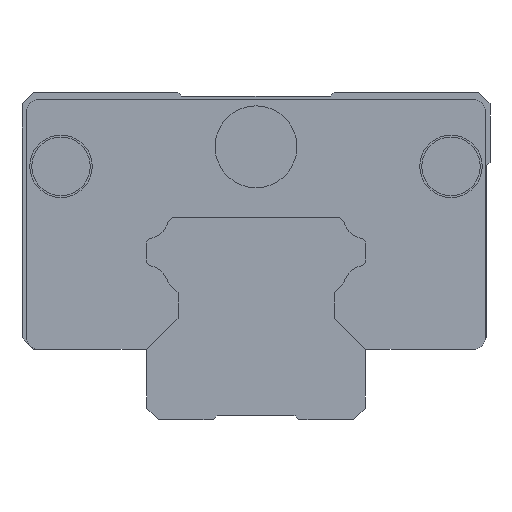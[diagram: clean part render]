
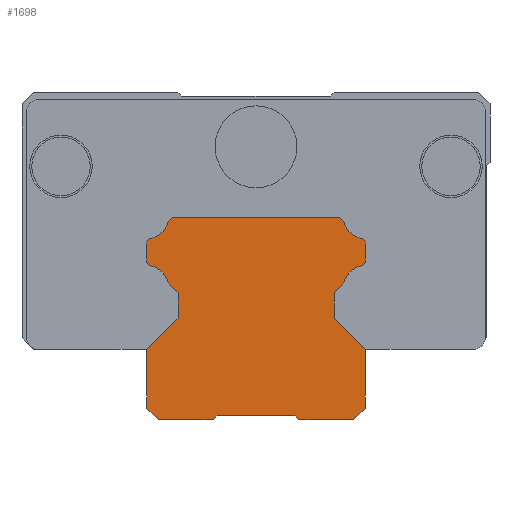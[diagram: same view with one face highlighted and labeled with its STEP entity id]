
A CAD part, left-side view. The second image highlights one B-rep face of the part: STEP entity #1698.
In plain terms, the highlighted planar face has unit normal (-1, 0, 0).
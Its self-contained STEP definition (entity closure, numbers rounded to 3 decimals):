
#758=CARTESIAN_POINT('',(0.0,-14.,9.0));
#759=VERTEX_POINT('',#758);
#766=CARTESIAN_POINT('',(0.0,-14.,1.5));
#767=VERTEX_POINT('',#766);
#768=CARTESIAN_POINT('',(0.0,-14.,9.0));
#769=DIRECTION('',(0.0,0.0,-1.0));
#770=VECTOR('',#769,7.5);
#771=LINE('',#768,#770);
#772=EDGE_CURVE('',#759,#767,#771,.T.);
#796=CARTESIAN_POINT('',(0.0,-10.0,13.0));
#797=VERTEX_POINT('',#796);
#804=CARTESIAN_POINT('',(0.0,-10.0,13.0));
#805=DIRECTION('',(0.0,-0.707,-0.707));
#806=VECTOR('',#805,5.657);
#807=LINE('',#804,#806);
#808=EDGE_CURVE('',#797,#759,#807,.T.);
#827=CARTESIAN_POINT('',(0.0,-10.0,16.289));
#828=VERTEX_POINT('',#827);
#835=CARTESIAN_POINT('',(0.0,-10.0,16.289));
#836=DIRECTION('',(0.0,0.0,-1.0));
#837=VECTOR('',#836,3.289);
#838=LINE('',#835,#837);
#839=EDGE_CURVE('',#828,#797,#838,.T.);
#858=CARTESIAN_POINT('',(0.0,-11.261,17.55));
#859=VERTEX_POINT('',#858);
#866=CARTESIAN_POINT('',(0.0,-11.261,17.55));
#867=DIRECTION('',(0.0,0.707,-0.707));
#868=VECTOR('',#867,1.784);
#869=LINE('',#866,#868);
#870=EDGE_CURVE('',#859,#828,#869,.T.);
#890=CARTESIAN_POINT('',(0.0,-13.518,19.758));
#891=VERTEX_POINT('',#890);
#898=CARTESIAN_POINT('',(0.0,-14.082,16.925));
#899=DIRECTION('',(-1.,0.0,0.0));
#900=DIRECTION('',(0.0,-0.976,-0.216));
#901=AXIS2_PLACEMENT_3D('',#898,#899,#900);
#902=CIRCLE('',#901,2.889);
#903=EDGE_CURVE('',#891,#859,#902,.T.);
#923=CARTESIAN_POINT('',(0.0,-14.,20.347));
#924=VERTEX_POINT('',#923);
#931=CARTESIAN_POINT('',(0.0,-13.4,20.347));
#932=DIRECTION('',(1.0,0.0,0.0));
#933=DIRECTION('',(0.0,-1.0,0.0));
#934=AXIS2_PLACEMENT_3D('',#931,#932,#933);
#935=CIRCLE('',#934,0.6);
#936=EDGE_CURVE('',#924,#891,#935,.T.);
#955=CARTESIAN_POINT('',(0.0,-14.,22.653));
#956=VERTEX_POINT('',#955);
#963=CARTESIAN_POINT('',(0.0,-14.,22.653));
#964=DIRECTION('',(0.0,0.0,-1.0));
#965=VECTOR('',#964,2.307);
#966=LINE('',#963,#965);
#967=EDGE_CURVE('',#956,#924,#966,.T.);
#987=CARTESIAN_POINT('',(0.0,-13.517,23.242));
#988=VERTEX_POINT('',#987);
#995=CARTESIAN_POINT('',(0.0,-13.4,22.653));
#996=DIRECTION('',(1.,0.0,0.0));
#997=DIRECTION('',(0.0,-0.194,0.981));
#998=AXIS2_PLACEMENT_3D('',#995,#996,#997);
#999=CIRCLE('',#998,0.6);
#1000=EDGE_CURVE('',#988,#956,#999,.T.);
#1020=CARTESIAN_POINT('',(0.0,-11.261,25.45));
#1021=VERTEX_POINT('',#1020);
#1028=CARTESIAN_POINT('',(0.0,-14.082,26.075));
#1029=DIRECTION('',(-1.,0.0,0.0));
#1030=DIRECTION('',(0.0,-0.196,0.981));
#1031=AXIS2_PLACEMENT_3D('',#1028,#1029,#1030);
#1032=CIRCLE('',#1031,2.889);
#1033=EDGE_CURVE('',#1021,#988,#1032,.T.);
#1052=CARTESIAN_POINT('',(0.0,-10.711,26.0));
#1053=VERTEX_POINT('',#1052);
#1060=CARTESIAN_POINT('',(0.0,-10.711,26.0));
#1061=DIRECTION('',(0.0,-0.707,-0.707));
#1062=VECTOR('',#1061,0.778);
#1063=LINE('',#1060,#1062);
#1064=EDGE_CURVE('',#1053,#1021,#1063,.T.);
#1083=CARTESIAN_POINT('',(0.0,10.711,26.));
#1084=VERTEX_POINT('',#1083);
#1091=CARTESIAN_POINT('',(0.0,10.711,26.));
#1092=DIRECTION('',(0.0,-1.0,0.0));
#1093=VECTOR('',#1092,21.423);
#1094=LINE('',#1091,#1093);
#1095=EDGE_CURVE('',#1084,#1053,#1094,.T.);
#1132=CARTESIAN_POINT('',(0.0,11.261,25.45));
#1133=VERTEX_POINT('',#1132);
#1140=CARTESIAN_POINT('',(0.0,11.261,25.45));
#1141=DIRECTION('',(0.0,-0.707,0.707));
#1142=VECTOR('',#1141,0.778);
#1143=LINE('',#1140,#1142);
#1144=EDGE_CURVE('',#1133,#1084,#1143,.T.);
#1164=CARTESIAN_POINT('',(0.0,13.517,23.242));
#1165=VERTEX_POINT('',#1164);
#1172=CARTESIAN_POINT('',(0.0,14.082,26.075));
#1173=DIRECTION('',(-1.0,0.0,0.0));
#1174=DIRECTION('',(0.0,0.976,0.216));
#1175=AXIS2_PLACEMENT_3D('',#1172,#1173,#1174);
#1176=CIRCLE('',#1175,2.889);
#1177=EDGE_CURVE('',#1165,#1133,#1176,.T.);
#1197=CARTESIAN_POINT('',(0.0,14.,22.653));
#1198=VERTEX_POINT('',#1197);
#1205=CARTESIAN_POINT('',(0.0,13.4,22.653));
#1206=DIRECTION('',(1.0,0.0,0.0));
#1207=DIRECTION('',(0.0,1.0,0.0));
#1208=AXIS2_PLACEMENT_3D('',#1205,#1206,#1207);
#1209=CIRCLE('',#1208,0.6);
#1210=EDGE_CURVE('',#1198,#1165,#1209,.T.);
#1229=CARTESIAN_POINT('',(0.0,14.,20.347));
#1230=VERTEX_POINT('',#1229);
#1237=CARTESIAN_POINT('',(0.0,14.,20.347));
#1238=DIRECTION('',(0.0,0.0,1.0));
#1239=VECTOR('',#1238,2.307);
#1240=LINE('',#1237,#1239);
#1241=EDGE_CURVE('',#1230,#1198,#1240,.T.);
#1261=CARTESIAN_POINT('',(0.0,13.518,19.758));
#1262=VERTEX_POINT('',#1261);
#1269=CARTESIAN_POINT('',(0.0,13.4,20.347));
#1270=DIRECTION('',(1.0,0.0,0.0));
#1271=DIRECTION('',(0.0,0.196,-0.981));
#1272=AXIS2_PLACEMENT_3D('',#1269,#1270,#1271);
#1273=CIRCLE('',#1272,0.6);
#1274=EDGE_CURVE('',#1262,#1230,#1273,.T.);
#1294=CARTESIAN_POINT('',(0.0,11.261,17.55));
#1295=VERTEX_POINT('',#1294);
#1302=CARTESIAN_POINT('',(0.0,14.082,16.925));
#1303=DIRECTION('',(-1.,0.0,0.0));
#1304=DIRECTION('',(0.0,0.195,-0.981));
#1305=AXIS2_PLACEMENT_3D('',#1302,#1303,#1304);
#1306=CIRCLE('',#1305,2.889);
#1307=EDGE_CURVE('',#1295,#1262,#1306,.T.);
#1326=CARTESIAN_POINT('',(0.0,10.0,16.289));
#1327=VERTEX_POINT('',#1326);
#1334=CARTESIAN_POINT('',(0.0,10.0,16.289));
#1335=DIRECTION('',(0.0,0.707,0.707));
#1336=VECTOR('',#1335,1.784);
#1337=LINE('',#1334,#1336);
#1338=EDGE_CURVE('',#1327,#1295,#1337,.T.);
#1357=CARTESIAN_POINT('',(0.0,10.0,13.0));
#1358=VERTEX_POINT('',#1357);
#1365=CARTESIAN_POINT('',(0.0,10.0,13.0));
#1366=DIRECTION('',(0.0,0.0,1.0));
#1367=VECTOR('',#1366,3.289);
#1368=LINE('',#1365,#1367);
#1369=EDGE_CURVE('',#1358,#1327,#1368,.T.);
#1388=CARTESIAN_POINT('',(0.0,14.,9.0));
#1389=VERTEX_POINT('',#1388);
#1396=CARTESIAN_POINT('',(0.0,14.,9.0));
#1397=DIRECTION('',(0.0,-0.707,0.707));
#1398=VECTOR('',#1397,5.657);
#1399=LINE('',#1396,#1398);
#1400=EDGE_CURVE('',#1389,#1358,#1399,.T.);
#1419=CARTESIAN_POINT('',(0.0,14.,1.5));
#1420=VERTEX_POINT('',#1419);
#1427=CARTESIAN_POINT('',(0.0,14.,1.5));
#1428=DIRECTION('',(0.0,0.0,1.0));
#1429=VECTOR('',#1428,7.5);
#1430=LINE('',#1427,#1429);
#1431=EDGE_CURVE('',#1420,#1389,#1430,.T.);
#1450=CARTESIAN_POINT('',(0.0,12.5,0.0));
#1451=VERTEX_POINT('',#1450);
#1458=CARTESIAN_POINT('',(0.0,12.5,0.0));
#1459=DIRECTION('',(0.0,0.707,0.707));
#1460=VECTOR('',#1459,2.121);
#1461=LINE('',#1458,#1460);
#1462=EDGE_CURVE('',#1451,#1420,#1461,.T.);
#1481=CARTESIAN_POINT('',(0.0,5.5,0.0));
#1482=VERTEX_POINT('',#1481);
#1489=CARTESIAN_POINT('',(0.0,5.5,0.0));
#1490=DIRECTION('',(0.0,1.0,0.0));
#1491=VECTOR('',#1490,7.0);
#1492=LINE('',#1489,#1491);
#1493=EDGE_CURVE('',#1482,#1451,#1492,.T.);
#1512=CARTESIAN_POINT('',(0.0,5.0,0.5));
#1513=VERTEX_POINT('',#1512);
#1520=CARTESIAN_POINT('',(0.0,5.0,0.5));
#1521=DIRECTION('',(0.0,0.707,-0.707));
#1522=VECTOR('',#1521,0.707);
#1523=LINE('',#1520,#1522);
#1524=EDGE_CURVE('',#1513,#1482,#1523,.T.);
#1543=CARTESIAN_POINT('',(0.0,-5.0,0.5));
#1544=VERTEX_POINT('',#1543);
#1551=CARTESIAN_POINT('',(0.0,-5.0,0.5));
#1552=DIRECTION('',(0.0,1.0,0.0));
#1553=VECTOR('',#1552,10.0);
#1554=LINE('',#1551,#1553);
#1555=EDGE_CURVE('',#1544,#1513,#1554,.T.);
#1592=CARTESIAN_POINT('',(0.0,-5.5,0.0));
#1593=VERTEX_POINT('',#1592);
#1600=CARTESIAN_POINT('',(0.0,-5.5,0.0));
#1601=DIRECTION('',(0.0,0.707,0.707));
#1602=VECTOR('',#1601,0.707);
#1603=LINE('',#1600,#1602);
#1604=EDGE_CURVE('',#1593,#1544,#1603,.T.);
#1623=CARTESIAN_POINT('',(0.0,-12.5,0.0));
#1624=VERTEX_POINT('',#1623);
#1631=CARTESIAN_POINT('',(0.0,-12.5,0.0));
#1632=DIRECTION('',(0.0,1.0,0.0));
#1633=VECTOR('',#1632,7.);
#1634=LINE('',#1631,#1633);
#1635=EDGE_CURVE('',#1624,#1593,#1634,.T.);
#1653=CARTESIAN_POINT('',(0.0,-14.,1.5));
#1654=DIRECTION('',(0.0,0.707,-0.707));
#1655=VECTOR('',#1654,2.121);
#1656=LINE('',#1653,#1655);
#1657=EDGE_CURVE('',#767,#1624,#1656,.T.);
#1663=CARTESIAN_POINT('',(0.0,0.,12.891));
#1664=DIRECTION('',(1.0,0.0,0.0));
#1665=DIRECTION('',(0.0,0.0,-1.0));
#1666=AXIS2_PLACEMENT_3D('',#1663,#1664,#1665);
#1667=PLANE('',#1666);
#1668=ORIENTED_EDGE('',*,*,#1657,.F.);
#1669=ORIENTED_EDGE('',*,*,#772,.F.);
#1670=ORIENTED_EDGE('',*,*,#808,.F.);
#1671=ORIENTED_EDGE('',*,*,#839,.F.);
#1672=ORIENTED_EDGE('',*,*,#870,.F.);
#1673=ORIENTED_EDGE('',*,*,#903,.F.);
#1674=ORIENTED_EDGE('',*,*,#936,.F.);
#1675=ORIENTED_EDGE('',*,*,#967,.F.);
#1676=ORIENTED_EDGE('',*,*,#1000,.F.);
#1677=ORIENTED_EDGE('',*,*,#1033,.F.);
#1678=ORIENTED_EDGE('',*,*,#1064,.F.);
#1679=ORIENTED_EDGE('',*,*,#1095,.F.);
#1680=ORIENTED_EDGE('',*,*,#1144,.F.);
#1681=ORIENTED_EDGE('',*,*,#1177,.F.);
#1682=ORIENTED_EDGE('',*,*,#1210,.F.);
#1683=ORIENTED_EDGE('',*,*,#1241,.F.);
#1684=ORIENTED_EDGE('',*,*,#1274,.F.);
#1685=ORIENTED_EDGE('',*,*,#1307,.F.);
#1686=ORIENTED_EDGE('',*,*,#1338,.F.);
#1687=ORIENTED_EDGE('',*,*,#1369,.F.);
#1688=ORIENTED_EDGE('',*,*,#1400,.F.);
#1689=ORIENTED_EDGE('',*,*,#1431,.F.);
#1690=ORIENTED_EDGE('',*,*,#1462,.F.);
#1691=ORIENTED_EDGE('',*,*,#1493,.F.);
#1692=ORIENTED_EDGE('',*,*,#1524,.F.);
#1693=ORIENTED_EDGE('',*,*,#1555,.F.);
#1694=ORIENTED_EDGE('',*,*,#1604,.F.);
#1695=ORIENTED_EDGE('',*,*,#1635,.F.);
#1696=EDGE_LOOP('',(#1668,#1669,#1670,#1671,#1672,#1673,#1674,#1675,#1676,#1677,#1678,#1679,#1680,#1681,#1682,#1683,#1684,#1685,#1686,#1687,#1688,#1689,#1690,#1691,#1692,#1693,#1694,#1695));
#1697=FACE_OUTER_BOUND('',#1696,.T.);
#1698=ADVANCED_FACE('',(#1697),#1667,.F.);
